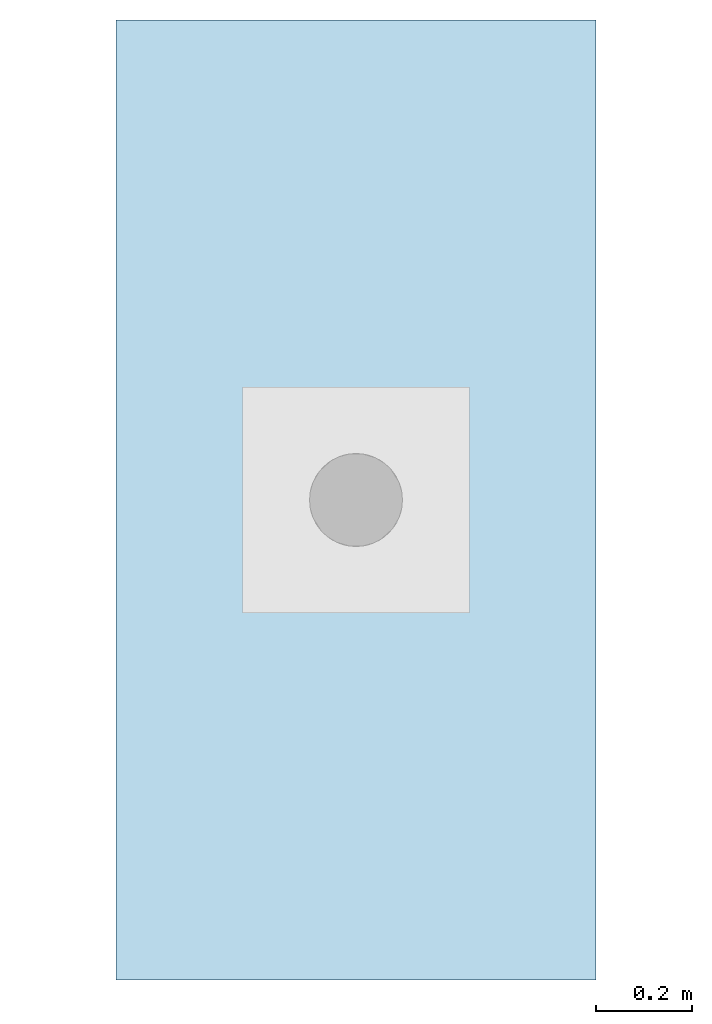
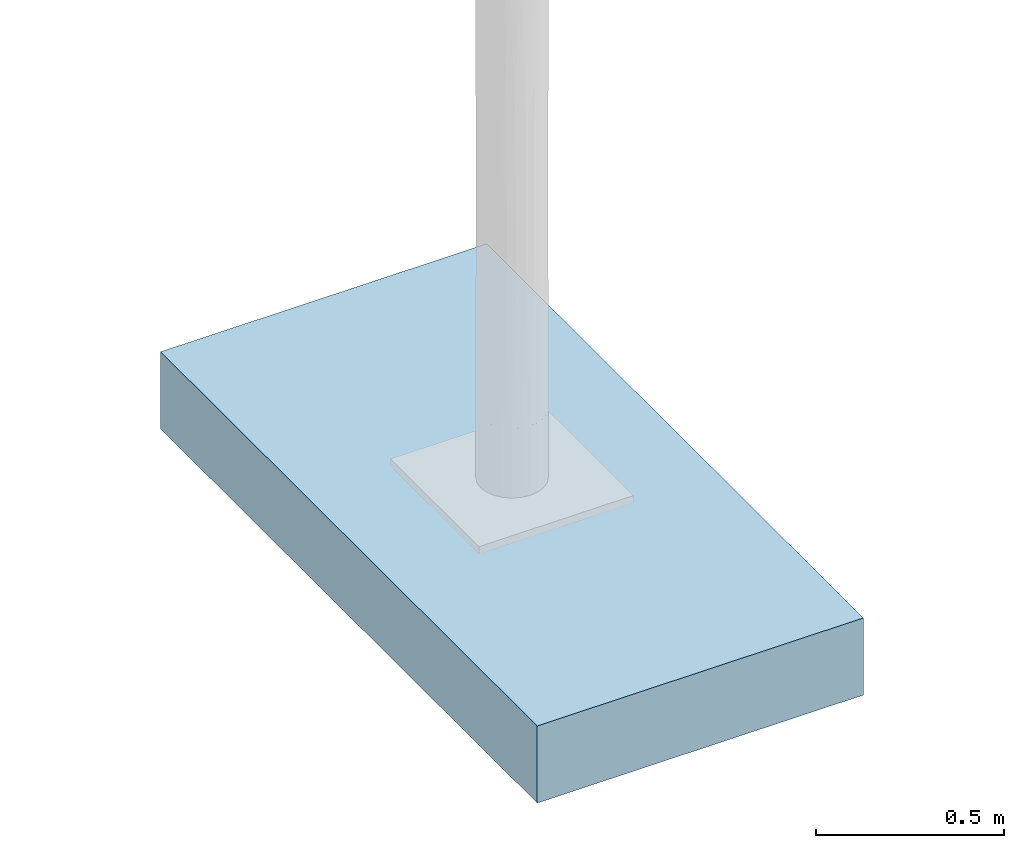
# One storey, incomplete: 1 slab.
"""IFC4 building model written with IfcOpenShell, lengths in metres."""

import ifcopenshell
import ifcopenshell.guid

model = None  # the IFC model being written
_history = None  # IfcOwnerHistory: only IFC2X3 demands one
_inside = {}  # id of a spatial element -> (the spatial element, [elements in it])
_under = {}  # id of a project, library or spatial element -> (it, [spatial elements below it])
_declared = {}  # id of a project -> (the project, [libraries it declares])
_typed = {}  # id of a type object -> (the type object, [elements of that type])
_made_of = {}  # id of a material, layer set ... -> (it, [elements and type objects made of it])


def new_model(schema):
    """Start an empty IFC model of exactly this schema.

    Asked for "IFC4X3", IfcOpenShell would pick the latest addendum, in which some entities
    have other attributes; the version numbers below select the first issue.
    IFC2X3 requires an IfcOwnerHistory on every rooted entity: one is made here for all.
    """
    global model, _history
    if schema == "IFC4X3":
        model = ifcopenshell.file(schema_version=(4, 3, 0, 0))
    else:
        model = ifcopenshell.file(schema=schema)
    _inside.clear()
    _under.clear()
    _declared.clear()
    _typed.clear()
    _made_of.clear()
    _history = None
    if model.schema == "IFC2X3":
        org = make("IfcOrganization", Name="unknown")
        user = make(
            "IfcPersonAndOrganization",
            ThePerson=make("IfcPerson", FamilyName="unknown"),
            TheOrganization=org,
        )
        app = make(
            "IfcApplication",
            ApplicationDeveloper=org,
            Version="unknown",
            ApplicationFullName="unknown",
            ApplicationIdentifier="unknown",
        )
        _history = make(
            "IfcOwnerHistory",
            OwningUser=user,
            OwningApplication=app,
            ChangeAction="ADDED",
            CreationDate=0,
        )
    return model


def make(cls, **values):
    """One entity of the class cls with the attributes given. An attribute that is None is left unset."""
    return model.create_entity(
        cls, **{name: value for name, value in values.items() if value is not None}
    )


def entity(cls, *values):
    """Any entity or typed value of the class cls, its attributes in the order of the schema. None: left unset."""
    e = model.create_entity(cls)
    for i, value in enumerate(values):
        if value is not None:
            e[i] = value
    return e


def rooted(cls, **values):
    """An entity with a GlobalId (a new one), such as an element, a storey or a relation."""
    return make(cls, GlobalId=ifcopenshell.guid.new(), OwnerHistory=_history, **values)


def si_unit(unit_type, name, prefix=None):
    """IfcSIUnit, for example si_unit("LENGTHUNIT", "METRE", prefix="MILLI")."""
    return make("IfcSIUnit", UnitType=unit_type, Prefix=prefix, Name=name)


def converted_unit(unit_type, name, factor, base, dimensions=None, offset=None):
    """IfcConversionBasedUnit, such as the inch: factor (a typed value) times the base unit."""
    return make(
        "IfcConversionBasedUnit"
        if offset is None
        else "IfcConversionBasedUnitWithOffset",
        ConversionOffset=offset,
        Dimensions=None
        if dimensions is None
        else entity("IfcDimensionalExponents", *dimensions),
        UnitType=unit_type,
        Name=name,
        ConversionFactor=make(
            "IfcMeasureWithUnit", ValueComponent=factor, UnitComponent=base
        ),
    )


def assignment(units):
    """IfcUnitAssignment: the units of a project."""
    return None if units is None else make("IfcUnitAssignment", Units=units)


def point(xyz):
    """IfcCartesianPoint."""
    return None if xyz is None else make("IfcCartesianPoint", Coordinates=xyz)


def direction(xyz):
    """IfcDirection."""
    return None if xyz is None else make("IfcDirection", DirectionRatios=xyz)


def frame(location, z_axis=None, x_axis=None):
    """IfcAxis2Placement3D, a coordinate frame: its origin and axes. An axis left out is left unset."""
    return make(
        "IfcAxis2Placement3D",
        Location=point(location),
        Axis=direction(z_axis),
        RefDirection=direction(x_axis),
    )


def frame_2d(location, x_axis=None):
    """IfcAxis2Placement2D, a coordinate frame in the plane: its origin and x axis."""
    return make(
        "IfcAxis2Placement2D", Location=point(location), RefDirection=direction(x_axis)
    )


def origin():
    """The frame at (0, 0, 0) with its axes left unset."""
    return frame((0.0, 0.0, 0.0))


def place(relative_to, where):
    """IfcLocalPlacement: puts the frame where relative to a parent placement (None: the world)."""
    return make(
        "IfcLocalPlacement", PlacementRelTo=relative_to, RelativePlacement=where
    )


def context(
    kind, dimensions, precision=None, world=None, true_north=None, identifier=None
):
    """IfcGeometricRepresentationContext, for example the 3D "Model" context."""
    return make(
        "IfcGeometricRepresentationContext",
        ContextIdentifier=identifier,
        ContextType=kind,
        CoordinateSpaceDimension=dimensions,
        Precision=precision,
        WorldCoordinateSystem=world,
        TrueNorth=true_north,
    )


def subcontext(parent, identifier, kind, view, scale=None):
    """IfcGeometricRepresentationSubContext, for example "Body" below "Model"."""
    return make(
        "IfcGeometricRepresentationSubContext",
        ContextIdentifier=identifier,
        ContextType=kind,
        ParentContext=parent,
        TargetScale=scale,
        TargetView=view,
    )


def project(units=None, contexts=None):
    """IfcProject with its units and contexts."""
    return rooted(
        "IfcProject",
        Name="project",
        RepresentationContexts=contexts,
        UnitsInContext=assignment(units),
    )


def spatial(cls, under=None, at=None, **own):
    """A site, building, storey or space (cls), placed at a placement, below another one or the project."""
    s = rooted(cls, ObjectPlacement=at, **own)
    if under is not None:
        _under.setdefault(under.id(), (under, []))[1].append(s)
    return s


def profile(cls, at=None, kind="AREA", **sizes):
    """A parametric profile (cls). Its sizes go by their IFC names, for example OverallWidth=200.0."""
    return make(cls, ProfileType=kind, Position=at, **sizes)


def rectangle(**sizes):
    """IfcRectangleProfileDef."""
    return profile("IfcRectangleProfileDef", **sizes)


def extrude(swept, where, along, depth):
    """IfcExtrudedAreaSolid: the profile swept, set in the frame where, extruded along a direction by depth."""
    return make(
        "IfcExtrudedAreaSolid",
        SweptArea=swept,
        Position=where,
        ExtrudedDirection=direction(along),
        Depth=depth,
    )


def shape(context_of_items, identifier, shape_type, items):
    """IfcShapeRepresentation: the items that make up one representation, for example the "Body"."""
    return make(
        "IfcShapeRepresentation",
        ContextOfItems=context_of_items,
        RepresentationIdentifier=identifier,
        RepresentationType=shape_type,
        Items=items,
    )


def made_of(thing, what):
    """Note that an element or type object is made of a material, layer set ...; save() writes the relation."""
    if what is not None:
        _made_of.setdefault(what.id(), (what, []))[1].append(thing)
    return thing


def type_object(cls, material=None, **own):
    """A type object (cls), such as IfcWallType, which elements share."""
    return made_of(rooted(cls, **own), material)


def element(
    cls,
    number,
    at=None,
    inside=None,
    cuts=None,
    type_object=None,
    material=None,
    context=None,
    identifier="Body",
    shape_type=None,
    held_by="IfcProductDefinitionShape",
    body=None,
    shapes=None,
    **own,
):
    """One element of the class cls, such as IfcWall. Its Tag is "e" and its number.

    at: its placement. inside: the storey or other place that contains it. cuts: it is an
    opening in that element (IfcRelVoidsElement). A single representation is given by context,
    identifier, shape_type and body (its items); several are given by shapes. held_by: the class
    of the entity that holds the representations. save() writes the other relations.
    """
    e = rooted(cls, Tag="e%d" % number, ObjectPlacement=at, **own)
    if body is not None:
        shapes = [shape(context, identifier, shape_type, body)]
    if shapes is not None:
        e.Representation = make(held_by, Representations=shapes)
    if inside is not None:
        _inside.setdefault(inside.id(), (inside, []))[1].append(e)
    if cuts is not None:
        rooted(
            "IfcRelVoidsElement", RelatingBuildingElement=cuts, RelatedOpeningElement=e
        )
    if type_object is not None:
        _typed.setdefault(type_object.id(), (type_object, []))[1].append(e)
    return made_of(e, material)


def aggregate(whole, parts):
    """IfcRelAggregates: a whole, such as a stair, and the parts it consists of."""
    return rooted("IfcRelAggregates", RelatingObject=whole, RelatedObjects=parts)


def save(model, path):
    """Write the relations noted so far, then the file.

    IfcRelAggregates (storeys below a building ...), IfcRelContainedInSpatialStructure (elements
    in a storey), IfcRelDefinesByType, IfcRelAssociatesMaterial and IfcRelDeclares: one each for
    every whole, place, type object, material and project.
    """
    for whole, parts in _under.values():
        aggregate(whole, parts)
    for where, things in _inside.values():
        rooted(
            "IfcRelContainedInSpatialStructure",
            RelatedElements=things,
            RelatingStructure=where,
        )
    for kind, things in _typed.values():
        rooted("IfcRelDefinesByType", RelatedObjects=things, RelatingType=kind)
    for what, things in _made_of.values():
        rooted("IfcRelAssociatesMaterial", RelatedObjects=things, RelatingMaterial=what)
    for by, libraries in _declared.values():
        rooted("IfcRelDeclares", RelatingContext=by, RelatedDefinitions=libraries)
    model.write(path)


model = new_model("IFC4")

# Units and contexts
model_context = context("Model", 3, precision=1e-05, world=origin(), true_north=direction((6.123031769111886e-17, 1.0)))
body_context = subcontext(model_context, "Body", "Model", "MODEL_VIEW")
ifc_project = project(units=[si_unit("LENGTHUNIT", "METRE"), converted_unit("PLANEANGLEUNIT", "DEGREE", entity("IfcPlaneAngleMeasure", 0.017453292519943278), si_unit("PLANEANGLEUNIT", "RADIAN"), dimensions=[0, 0, 0, 0, 0, 0, 0]), si_unit("AREAUNIT", "SQUARE_METRE")], contexts=[model_context])

# Site, building, storey
site_placement = place(None, origin())
site = spatial("IfcSite", under=ifc_project, at=site_placement, Name="Default", CompositionType="ELEMENT")
building_placement = place(site_placement, origin())
building = spatial("IfcBuilding", under=site, at=building_placement, CompositionType="ELEMENT")
storey_placement = place(building_placement, origin())
storey = spatial("IfcBuildingStorey", under=building, at=storey_placement, Name="Ebene 0", CompositionType="ELEMENT", Elevation=0.0)

# Slab
slab_type = type_object("IfcSlabType", Name="DB_ZIM_Fundament:DB_ZIM_Fundament", PredefinedType="BASESLAB")
slab_placement = place(storey_placement, origin())
element("IfcSlab", 1, at=slab_placement, inside=storey, type_object=slab_type, Name="DB_ZIM_Fundament:DB_ZIM_Fundament", ObjectType="DB_ZIM_Fundament:DB_ZIM_Fundament", PredefinedType="BASESLAB", context=body_context, shape_type="SweptSolid", body=[
    extrude(rectangle(XDim=0.9999999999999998, YDim=2.0, at=frame_2d((0.09999999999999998, 0.0), x_axis=(1.0, 0.0))), frame((-0.09999999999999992, 0.0, -0.4999500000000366)), (0.0, 0.0, 1.0), 0.25),
])

save(model, "model.ifc")
